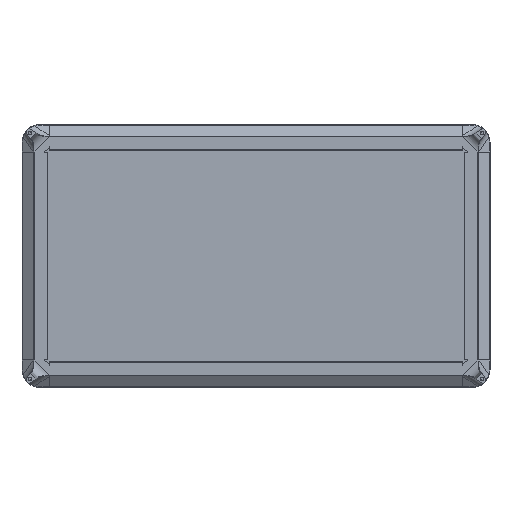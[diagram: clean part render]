
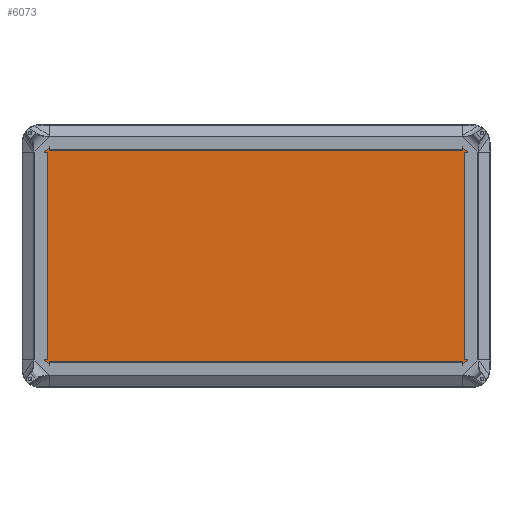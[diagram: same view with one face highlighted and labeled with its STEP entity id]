
A CAD part, front view. The second image highlights one B-rep face of the part: STEP entity #6073.
In plain terms, the highlighted planar face has unit normal (0, -1, 0).
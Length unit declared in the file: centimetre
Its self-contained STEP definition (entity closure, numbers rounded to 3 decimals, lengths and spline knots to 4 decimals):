
#597=LINE('',#11386,#1141);
#598=LINE('',#11390,#1142);
#599=LINE('',#11394,#1143);
#600=LINE('',#11398,#1144);
#1141=VECTOR('',#8204,147.6);
#1142=VECTOR('',#8207,77.6);
#1143=VECTOR('',#8210,147.6);
#1144=VECTOR('',#8213,77.6);
#1395=PLANE('',#6626);
#1702=FACE_OUTER_BOUND('',#2175,.T.);
#2175=EDGE_LOOP('',(#5421,#5422,#5423,#5424,#5425,#5426,#5427,#5428));
#2409=CIRCLE('',#6627,5.9);
#2410=CIRCLE('',#6628,5.9);
#2411=CIRCLE('',#6629,5.9);
#2412=CIRCLE('',#6630,5.9);
#2929=VERTEX_POINT('',#11384);
#2930=VERTEX_POINT('',#11385);
#2931=VERTEX_POINT('',#11387);
#2932=VERTEX_POINT('',#11389);
#2933=VERTEX_POINT('',#11391);
#2934=VERTEX_POINT('',#11393);
#2935=VERTEX_POINT('',#11395);
#2936=VERTEX_POINT('',#11397);
#3757=EDGE_CURVE('',#2929,#2930,#597,.T.);
#3758=EDGE_CURVE('',#2931,#2929,#2409,.T.);
#3759=EDGE_CURVE('',#2932,#2931,#598,.T.);
#3760=EDGE_CURVE('',#2933,#2932,#2410,.T.);
#3761=EDGE_CURVE('',#2934,#2933,#599,.T.);
#3762=EDGE_CURVE('',#2935,#2934,#2411,.T.);
#3763=EDGE_CURVE('',#2936,#2935,#600,.T.);
#3764=EDGE_CURVE('',#2930,#2936,#2412,.T.);
#5421=ORIENTED_EDGE('',*,*,#3757,.F.);
#5422=ORIENTED_EDGE('',*,*,#3758,.F.);
#5423=ORIENTED_EDGE('',*,*,#3759,.F.);
#5424=ORIENTED_EDGE('',*,*,#3760,.F.);
#5425=ORIENTED_EDGE('',*,*,#3761,.F.);
#5426=ORIENTED_EDGE('',*,*,#3762,.F.);
#5427=ORIENTED_EDGE('',*,*,#3763,.F.);
#5428=ORIENTED_EDGE('',*,*,#3764,.F.);
#6073=ADVANCED_FACE('',(#1702),#1395,.F.);
#6626=AXIS2_PLACEMENT_3D('',#11383,#8202,#8203);
#6627=AXIS2_PLACEMENT_3D('',#11388,#8205,#8206);
#6628=AXIS2_PLACEMENT_3D('',#11392,#8208,#8209);
#6629=AXIS2_PLACEMENT_3D('',#11396,#8211,#8212);
#6630=AXIS2_PLACEMENT_3D('',#11399,#8214,#8215);
#8202=DIRECTION('center_axis',(0.,1.,0.));
#8203=DIRECTION('ref_axis',(-1.,0.,0.));
#8204=DIRECTION('',(-1.,0.,0.));
#8205=DIRECTION('center_axis',(0.,1.,0.));
#8206=DIRECTION('ref_axis',(0.707,0.,-0.707));
#8207=DIRECTION('',(0.,0.,-1.));
#8208=DIRECTION('center_axis',(0.,1.,0.));
#8209=DIRECTION('ref_axis',(0.707,0.,0.707));
#8210=DIRECTION('',(1.,0.,0.));
#8211=DIRECTION('center_axis',(0.,1.,0.));
#8212=DIRECTION('ref_axis',(-0.707,0.,0.707));
#8213=DIRECTION('',(0.,0.,1.));
#8214=DIRECTION('center_axis',(0.,1.,0.));
#8215=DIRECTION('ref_axis',(-0.707,0.,-0.707));
#11383=CARTESIAN_POINT('Origin',(64.7963,1.7898,-35.5));
#11384=CARTESIAN_POINT('',(138.5963,1.7898,-80.2));
#11385=CARTESIAN_POINT('',(-9.0037,1.7898,-80.2));
#11386=CARTESIAN_POINT('',(24.8963,1.7898,-80.2));
#11387=CARTESIAN_POINT('',(144.4963,1.7898,-74.3));
#11388=CARTESIAN_POINT('Origin',(138.5963,1.7898,-74.3));
#11389=CARTESIAN_POINT('',(144.4963,1.7898,3.3));
#11390=CARTESIAN_POINT('',(144.4963,1.7898,-57.9));
#11391=CARTESIAN_POINT('',(138.5963,1.7898,9.2));
#11392=CARTESIAN_POINT('Origin',(138.5963,1.7898,3.3));
#11393=CARTESIAN_POINT('',(-9.0037,1.7898,9.2));
#11394=CARTESIAN_POINT('',(104.6963,1.7898,9.2));
#11395=CARTESIAN_POINT('',(-14.9037,1.7898,3.3));
#11396=CARTESIAN_POINT('Origin',(-9.0037,1.7898,3.3));
#11397=CARTESIAN_POINT('',(-14.9037,1.7898,-74.3));
#11398=CARTESIAN_POINT('',(-14.9037,1.7898,-13.1));
#11399=CARTESIAN_POINT('Origin',(-9.0037,1.7898,-74.3));
